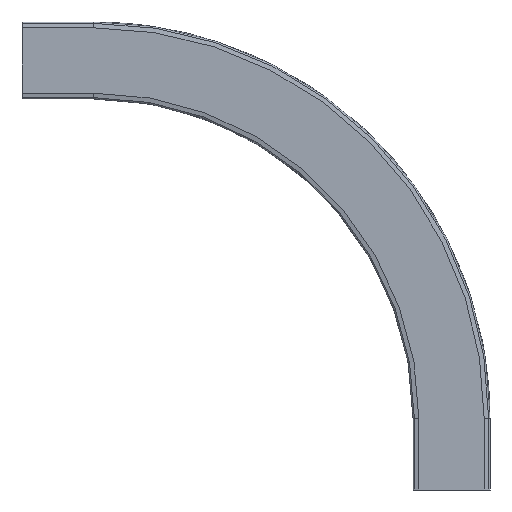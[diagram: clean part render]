
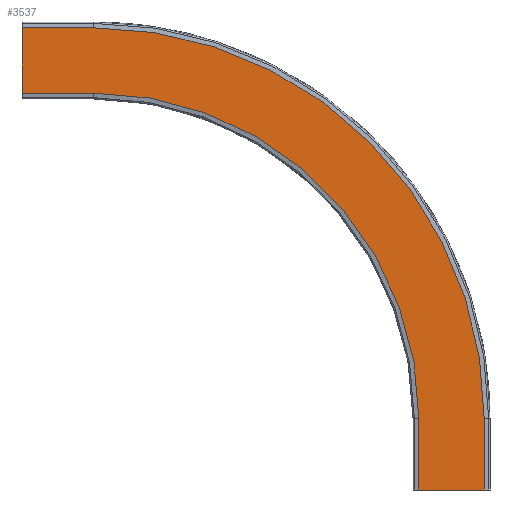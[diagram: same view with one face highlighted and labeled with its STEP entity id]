
A CAD part, front view. The second image highlights one B-rep face of the part: STEP entity #3537.
In plain terms, the highlighted planar face has unit normal (0, -1, 0).
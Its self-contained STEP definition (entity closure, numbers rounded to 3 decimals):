
#375=FACE_OUTER_BOUND('',#571,.T.);
#571=EDGE_LOOP('',(#3221,#3222,#3223,#3224,#3225,#3226,#3227,#3228));
#665=CIRCLE('',#3802,436.5);
#668=CIRCLE('',#3808,363.5);
#998=LINE('',#6497,#1356);
#1003=LINE('',#6506,#1361);
#1005=LINE('',#6511,#1363);
#1020=LINE('',#6551,#1378);
#1025=LINE('',#6562,#1383);
#1026=LINE('',#6564,#1384);
#1356=VECTOR('',#4611,10.);
#1361=VECTOR('',#4618,10.);
#1363=VECTOR('',#4622,10.);
#1378=VECTOR('',#4663,10.);
#1383=VECTOR('',#4676,10.);
#1384=VECTOR('',#4679,10.);
#1696=VERTEX_POINT('',#6494);
#1697=VERTEX_POINT('',#6496);
#1700=VERTEX_POINT('',#6503);
#1701=VERTEX_POINT('',#6508);
#1711=VERTEX_POINT('',#6534);
#1713=VERTEX_POINT('',#6544);
#1714=VERTEX_POINT('',#6549);
#1716=VERTEX_POINT('',#6560);
#2188=EDGE_CURVE('',#1697,#1696,#998,.T.);
#2193=EDGE_CURVE('',#1697,#1700,#1003,.T.);
#2195=EDGE_CURVE('',#1696,#1701,#1005,.T.);
#2208=EDGE_CURVE('',#1701,#1711,#665,.T.);
#2214=EDGE_CURVE('',#1700,#1713,#668,.T.);
#2216=EDGE_CURVE('',#1711,#1714,#1020,.T.);
#2221=EDGE_CURVE('',#1713,#1716,#1025,.T.);
#2222=EDGE_CURVE('',#1714,#1716,#1026,.T.);
#3221=ORIENTED_EDGE('',*,*,#2222,.T.);
#3222=ORIENTED_EDGE('',*,*,#2221,.F.);
#3223=ORIENTED_EDGE('',*,*,#2214,.F.);
#3224=ORIENTED_EDGE('',*,*,#2193,.F.);
#3225=ORIENTED_EDGE('',*,*,#2188,.T.);
#3226=ORIENTED_EDGE('',*,*,#2195,.T.);
#3227=ORIENTED_EDGE('',*,*,#2208,.T.);
#3228=ORIENTED_EDGE('',*,*,#2216,.T.);
#3354=PLANE('',#3814);
#3537=ADVANCED_FACE('',(#375),#3354,.T.);
#3802=AXIS2_PLACEMENT_3D('',#6536,#4643,#4644);
#3808=AXIS2_PLACEMENT_3D('',#6547,#4658,#4659);
#3814=AXIS2_PLACEMENT_3D('',#6563,#4677,#4678);
#4611=DIRECTION('',(1.,0.,0.));
#4618=DIRECTION('',(0.,0.,1.));
#4622=DIRECTION('',(0.,0.,1.));
#4643=DIRECTION('center_axis',(0.,-1.,0.));
#4644=DIRECTION('ref_axis',(1.,0.,0.));
#4658=DIRECTION('center_axis',(0.,-1.,0.));
#4659=DIRECTION('ref_axis',(1.,0.,0.));
#4663=DIRECTION('',(-1.,0.,0.));
#4676=DIRECTION('',(-1.,0.,0.));
#4677=DIRECTION('center_axis',(0.,-1.,0.));
#4678=DIRECTION('ref_axis',(1.,0.,0.));
#4679=DIRECTION('',(0.,0.,-1.));
#6494=CARTESIAN_POINT('',(36.5,-11.,0.));
#6496=CARTESIAN_POINT('',(-36.5,-11.,0.));
#6497=CARTESIAN_POINT('',(-36.5,-11.,0.));
#6503=CARTESIAN_POINT('',(-36.5,-11.,80.));
#6506=CARTESIAN_POINT('',(-36.5,-11.,0.));
#6508=CARTESIAN_POINT('',(36.5,-11.,80.));
#6511=CARTESIAN_POINT('',(36.5,-11.,0.));
#6534=CARTESIAN_POINT('',(-400.,-11.,516.5));
#6536=CARTESIAN_POINT('Origin',(-400.,-11.,80.));
#6544=CARTESIAN_POINT('',(-400.,-11.,443.5));
#6547=CARTESIAN_POINT('Origin',(-400.,-11.,80.));
#6549=CARTESIAN_POINT('',(-480.,-11.,516.5));
#6551=CARTESIAN_POINT('',(308.319,-11.,516.5));
#6560=CARTESIAN_POINT('',(-480.,-11.,443.5));
#6562=CARTESIAN_POINT('',(308.319,-11.,443.5));
#6563=CARTESIAN_POINT('Origin',(308.319,-11.,516.5));
#6564=CARTESIAN_POINT('',(-480.,-11.,499.75));
